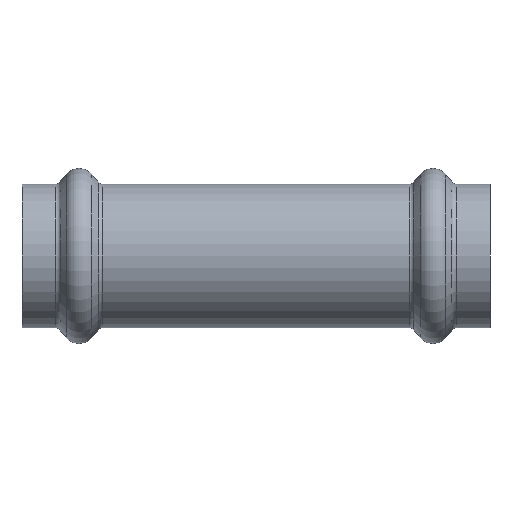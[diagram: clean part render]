
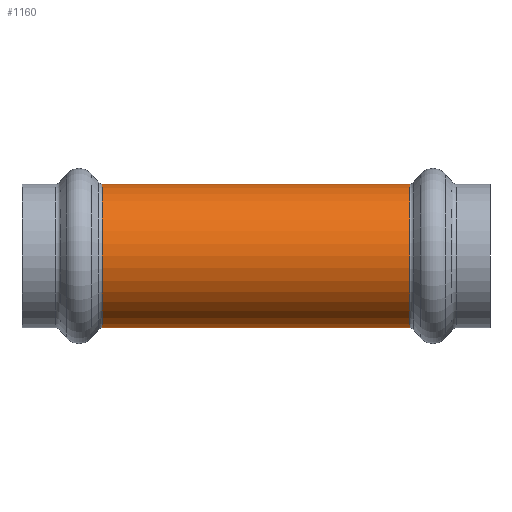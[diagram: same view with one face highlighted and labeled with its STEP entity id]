
A CAD part, front view. The second image highlights one B-rep face of the part: STEP entity #1160.
In plain terms, the highlighted cylindrical face has radius 12.6 mm (diameter 25.2 mm), a partial arc.
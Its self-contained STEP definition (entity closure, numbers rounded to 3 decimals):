
#12 = CARTESIAN_POINT ( 'NONE',  ( -26.897, 0., -12.6 ) ) ;
#37 = CARTESIAN_POINT ( 'NONE',  ( -55.033, 0., -12.6 ) ) ;
#43 = CARTESIAN_POINT ( 'NONE',  ( -26.897, 0., 0. ) ) ;
#79 = VERTEX_POINT ( 'NONE', #12 ) ;
#95 = VECTOR ( 'NONE', #97, 1000. ) ;
#97 = DIRECTION ( 'NONE',  ( -1., 0., 0. ) ) ;
#198 = CYLINDRICAL_SURFACE ( 'NONE', #1004, 12.6 ) ;
#240 = DIRECTION ( 'NONE',  ( 1., 0., 0. ) ) ;
#241 = DIRECTION ( 'NONE',  ( 0., 0., 1. ) ) ;
#284 = CARTESIAN_POINT ( 'NONE',  ( 26.897, 0., 0. ) ) ;
#328 = DIRECTION ( 'NONE',  ( -1., 0., 0. ) ) ;
#341 = EDGE_CURVE ( 'NONE', #691, #862, #758, .T. ) ;
#413 = CARTESIAN_POINT ( 'NONE',  ( 26.897, 0., -12.6 ) ) ;
#449 = LINE ( 'NONE', #37, #95 ) ;
#475 = ORIENTED_EDGE ( 'NONE', *, *, #1233, .F. ) ;
#483 = DIRECTION ( 'NONE',  ( -1., 0., 0. ) ) ;
#495 = AXIS2_PLACEMENT_3D ( 'NONE', #43, #240, #241 ) ;
#545 = EDGE_CURVE ( 'NONE', #862, #669, #616, .T. ) ;
#579 = CARTESIAN_POINT ( 'NONE',  ( -55.033, 0., 12.6 ) ) ;
#603 = CIRCLE ( 'NONE', #495, 12.6 ) ;
#616 = LINE ( 'NONE', #579, #928 ) ;
#645 = EDGE_CURVE ( 'NONE', #669, #79, #603, .T. ) ;
#649 = CARTESIAN_POINT ( 'NONE',  ( -26.897, 0., 12.6 ) ) ;
#669 = VERTEX_POINT ( 'NONE', #649 ) ;
#691 = VERTEX_POINT ( 'NONE', #413 ) ;
#699 = DIRECTION ( 'NONE',  ( 0., 0., 1. ) ) ;
#732 = CARTESIAN_POINT ( 'NONE',  ( 26.897, 0., 12.6 ) ) ;
#758 = CIRCLE ( 'NONE', #886, 12.6 ) ;
#862 = VERTEX_POINT ( 'NONE', #732 ) ;
#886 = AXIS2_PLACEMENT_3D ( 'NONE', #284, #483, #1074 ) ;
#928 = VECTOR ( 'NONE', #328, 1000. ) ;
#941 = FACE_OUTER_BOUND ( 'NONE', #1254, .T. ) ;
#961 = ORIENTED_EDGE ( 'NONE', *, *, #645, .T. ) ;
#966 = CARTESIAN_POINT ( 'NONE',  ( -55.033, 0., 0. ) ) ;
#994 = ORIENTED_EDGE ( 'NONE', *, *, #545, .T. ) ;
#1004 = AXIS2_PLACEMENT_3D ( 'NONE', #966, #1112, #699 ) ;
#1006 = ORIENTED_EDGE ( 'NONE', *, *, #341, .T. ) ;
#1074 = DIRECTION ( 'NONE',  ( 0., 0., -1. ) ) ;
#1112 = DIRECTION ( 'NONE',  ( -1., 0., 0. ) ) ;
#1160 = ADVANCED_FACE ( 'NONE', ( #941 ), #198, .T. ) ;
#1233 = EDGE_CURVE ( 'NONE', #691, #79, #449, .T. ) ;
#1254 = EDGE_LOOP ( 'NONE', ( #475, #1006, #994, #961 ) ) ;
